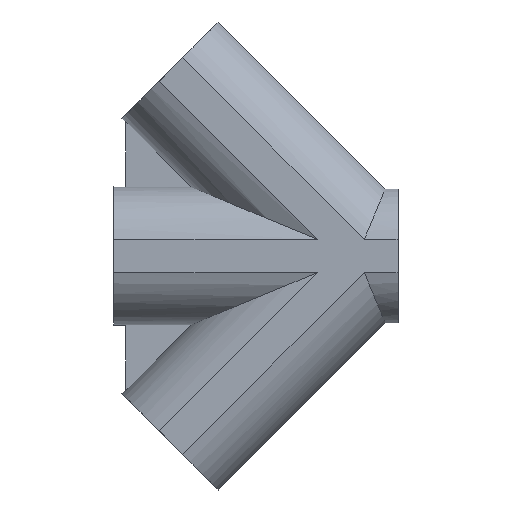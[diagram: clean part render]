
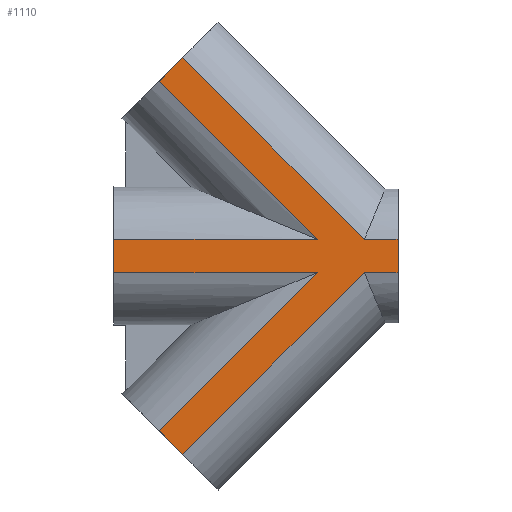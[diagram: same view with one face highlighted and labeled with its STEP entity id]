
A CAD part, left-side view. The second image highlights one B-rep face of the part: STEP entity #1110.
In plain terms, the highlighted planar face has unit normal (-1, 0, 0).
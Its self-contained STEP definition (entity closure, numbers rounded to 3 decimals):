
#12 = ORIENTED_EDGE ( 'NONE', *, *, #491, .F. ) ;
#45 = VECTOR ( 'NONE', #933, 1000. ) ;
#51 = EDGE_CURVE ( 'NONE', #781, #1318, #496, .T. ) ;
#66 = ORIENTED_EDGE ( 'NONE', *, *, #935, .T. ) ;
#89 = VECTOR ( 'NONE', #1206, 1000. ) ;
#95 = EDGE_CURVE ( 'NONE', #1177, #217, #1382, .T. ) ;
#122 = CARTESIAN_POINT ( 'NONE',  ( -16.5, 48.856, -43.068 ) ) ;
#129 = CARTESIAN_POINT ( 'NONE',  ( -16.5, 9.881, 4.093 ) ) ;
#132 = LINE ( 'NONE', #1233, #1078 ) ;
#135 = ORIENTED_EDGE ( 'NONE', *, *, #172, .T. ) ;
#150 = CARTESIAN_POINT ( 'NONE',  ( -16.5, 60., -4.1 ) ) ;
#172 = EDGE_CURVE ( 'NONE', #487, #1268, #190, .T. ) ;
#173 = VERTEX_POINT ( 'NONE', #754 ) ;
#190 = LINE ( 'NONE', #544, #89 ) ;
#204 = PLANE ( 'NONE',  #786 ) ;
#213 = ORIENTED_EDGE ( 'NONE', *, *, #95, .T. ) ;
#217 = VERTEX_POINT ( 'NONE', #418 ) ;
#252 = LINE ( 'NONE', #698, #1357 ) ;
#320 = DIRECTION ( 'NONE',  ( 1., 0., 0. ) ) ;
#349 = CARTESIAN_POINT ( 'NONE',  ( -16.5, -10., 0. ) ) ;
#375 = VERTEX_POINT ( 'NONE', #946 ) ;
#386 = VECTOR ( 'NONE', #1317, 1000. ) ;
#395 = EDGE_CURVE ( 'NONE', #575, #1224, #1387, .T. ) ;
#418 = CARTESIAN_POINT ( 'NONE',  ( -16.5, -1.695, -4.093 ) ) ;
#430 = CARTESIAN_POINT ( 'NONE',  ( -16.5, 43.068, -48.856 ) ) ;
#451 = FACE_OUTER_BOUND ( 'NONE', #461, .T. ) ;
#459 = CARTESIAN_POINT ( 'NONE',  ( -16.5, 60., 4.093 ) ) ;
#460 = ORIENTED_EDGE ( 'NONE', *, *, #601, .F. ) ;
#461 = EDGE_LOOP ( 'NONE', ( #1312, #965, #1383, #135, #695, #213, #12, #538, #460, #1204, #1202, #66 ) ) ;
#487 = VERTEX_POINT ( 'NONE', #653 ) ;
#488 = CARTESIAN_POINT ( 'NONE',  ( -16.5, 45.962, 45.962 ) ) ;
#490 = DIRECTION ( 'NONE',  ( 0., 0., -1. ) ) ;
#491 = EDGE_CURVE ( 'NONE', #375, #217, #986, .T. ) ;
#496 = LINE ( 'NONE', #150, #618 ) ;
#538 = ORIENTED_EDGE ( 'NONE', *, *, #958, .F. ) ;
#544 = CARTESIAN_POINT ( 'NONE',  ( -16.5, 48.856, -43.068 ) ) ;
#555 = DIRECTION ( 'NONE',  ( 0., 0.707, 0.707 ) ) ;
#575 = VERTEX_POINT ( 'NONE', #973 ) ;
#595 = VECTOR ( 'NONE', #1072, 1000. ) ;
#601 = EDGE_CURVE ( 'NONE', #1307, #173, #1213, .T. ) ;
#618 = VECTOR ( 'NONE', #490, 1000. ) ;
#653 = CARTESIAN_POINT ( 'NONE',  ( -16.5, 9.881, -4.093 ) ) ;
#656 = DIRECTION ( 'NONE',  ( 0., 0., -1. ) ) ;
#692 = CARTESIAN_POINT ( 'NONE',  ( -16.5, 60., -4.093 ) ) ;
#695 = ORIENTED_EDGE ( 'NONE', *, *, #1301, .T. ) ;
#698 = CARTESIAN_POINT ( 'NONE',  ( -16.5, 48.861, -43.063 ) ) ;
#753 = CARTESIAN_POINT ( 'NONE',  ( -16.5, 60., -4.093 ) ) ;
#754 = CARTESIAN_POINT ( 'NONE',  ( -16.5, -10., 4.093 ) ) ;
#766 = CARTESIAN_POINT ( 'NONE',  ( -16.5, 60., -4.093 ) ) ;
#781 = VERTEX_POINT ( 'NONE', #1153 ) ;
#786 = AXIS2_PLACEMENT_3D ( 'NONE', #1333, #320, #656 ) ;
#790 = LINE ( 'NONE', #819, #940 ) ;
#803 = DIRECTION ( 'NONE',  ( 0., 0., -1. ) ) ;
#805 = CARTESIAN_POINT ( 'NONE',  ( -16.5, 60., 4.093 ) ) ;
#819 = CARTESIAN_POINT ( 'NONE',  ( -16.5, 48.856, 43.068 ) ) ;
#833 = VECTOR ( 'NONE', #803, 1000. ) ;
#873 = EDGE_CURVE ( 'NONE', #1307, #1224, #132, .T. ) ;
#933 = DIRECTION ( 'NONE',  ( 0., -0.707, 0.707 ) ) ;
#934 = CARTESIAN_POINT ( 'NONE',  ( -16.5, 43.068, -48.856 ) ) ;
#935 = EDGE_CURVE ( 'NONE', #575, #1342, #790, .T. ) ;
#940 = VECTOR ( 'NONE', #1241, 1000. ) ;
#946 = CARTESIAN_POINT ( 'NONE',  ( -16.5, -10., -4.093 ) ) ;
#958 = EDGE_CURVE ( 'NONE', #173, #375, #1343, .T. ) ;
#965 = ORIENTED_EDGE ( 'NONE', *, *, #51, .T. ) ;
#973 = CARTESIAN_POINT ( 'NONE',  ( -16.5, 48.856, 43.068 ) ) ;
#986 = LINE ( 'NONE', #766, #595 ) ;
#1072 = DIRECTION ( 'NONE',  ( 0., 1., 0. ) ) ;
#1073 = DIRECTION ( 'NONE',  ( 0., 1., 0. ) ) ;
#1078 = VECTOR ( 'NONE', #555, 1000. ) ;
#1089 = LINE ( 'NONE', #459, #386 ) ;
#1110 = ADVANCED_FACE ( 'NONE', ( #451 ), #204, .F. ) ;
#1117 = EDGE_CURVE ( 'NONE', #781, #1342, #1089, .T. ) ;
#1146 = VECTOR ( 'NONE', #1279, 1000. ) ;
#1149 = CARTESIAN_POINT ( 'NONE',  ( -16.5, -1.695, 4.093 ) ) ;
#1153 = CARTESIAN_POINT ( 'NONE',  ( -16.5, 60., 4.093 ) ) ;
#1177 = VERTEX_POINT ( 'NONE', #430 ) ;
#1179 = LINE ( 'NONE', #753, #1448 ) ;
#1202 = ORIENTED_EDGE ( 'NONE', *, *, #395, .F. ) ;
#1204 = ORIENTED_EDGE ( 'NONE', *, *, #873, .T. ) ;
#1206 = DIRECTION ( 'NONE',  ( 0., 0.707, -0.707 ) ) ;
#1213 = LINE ( 'NONE', #805, #1351 ) ;
#1224 = VERTEX_POINT ( 'NONE', #1453 ) ;
#1233 = CARTESIAN_POINT ( 'NONE',  ( -16.5, 43.068, 48.856 ) ) ;
#1236 = DIRECTION ( 'NONE',  ( 0., -1., 0. ) ) ;
#1241 = DIRECTION ( 'NONE',  ( 0., -0.707, -0.707 ) ) ;
#1254 = DIRECTION ( 'NONE',  ( 0., -0.707, -0.707 ) ) ;
#1268 = VERTEX_POINT ( 'NONE', #122 ) ;
#1279 = DIRECTION ( 'NONE',  ( 0., -0.707, 0.707 ) ) ;
#1301 = EDGE_CURVE ( 'NONE', #1268, #1177, #252, .T. ) ;
#1307 = VERTEX_POINT ( 'NONE', #1149 ) ;
#1312 = ORIENTED_EDGE ( 'NONE', *, *, #1117, .F. ) ;
#1317 = DIRECTION ( 'NONE',  ( 0., -1., 0. ) ) ;
#1318 = VERTEX_POINT ( 'NONE', #692 ) ;
#1333 = CARTESIAN_POINT ( 'NONE',  ( -16.5, -31.363, -37.161 ) ) ;
#1342 = VERTEX_POINT ( 'NONE', #129 ) ;
#1343 = LINE ( 'NONE', #349, #833 ) ;
#1351 = VECTOR ( 'NONE', #1236, 1000. ) ;
#1357 = VECTOR ( 'NONE', #1254, 1000. ) ;
#1358 = EDGE_CURVE ( 'NONE', #487, #1318, #1179, .T. ) ;
#1382 = LINE ( 'NONE', #934, #1146 ) ;
#1383 = ORIENTED_EDGE ( 'NONE', *, *, #1358, .F. ) ;
#1387 = LINE ( 'NONE', #488, #45 ) ;
#1448 = VECTOR ( 'NONE', #1073, 1000. ) ;
#1453 = CARTESIAN_POINT ( 'NONE',  ( -16.5, 43.068, 48.856 ) ) ;
